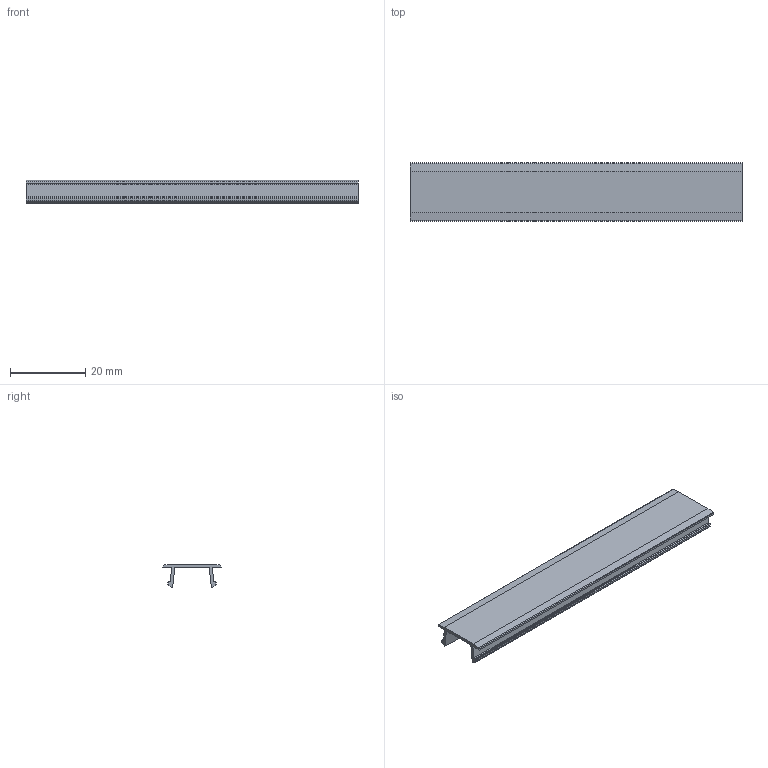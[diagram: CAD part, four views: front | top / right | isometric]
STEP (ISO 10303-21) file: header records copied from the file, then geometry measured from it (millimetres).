
FILE_DESCRIPTION (( 'STEP AP214' ), '1' );
FILE_NAME ('CR11G.STEP', '2011-11-21T12:17:58', ( '.' ), ( '' ), 'SwSTEP 2.0', 'SolidWorks 2010', '' );
FILE_SCHEMA (( 'AUTOMOTIVE_DESIGN' ));
Length unit declared in the file: millimetre
Products named in the file (1): CR11G
Bounding box: 88.42 x 15.52 x 6.21 mm (x, y, z)
Volume: 1911.7 mm3; surface area: 4819.8 mm2
Topology: 1 solids, 1 shells, 36 faces, 102 edges, 68 vertices
Faces by surface type: plane 20, cylinder 16
Entity records: 1212 total; most frequent: DIRECTION 208, CARTESIAN_POINT 207, ORIENTED_EDGE 204, EDGE_CURVE 102, VECTOR 70, LINE 70, AXIS2_PLACEMENT_3D 69, VERTEX_POINT 68
